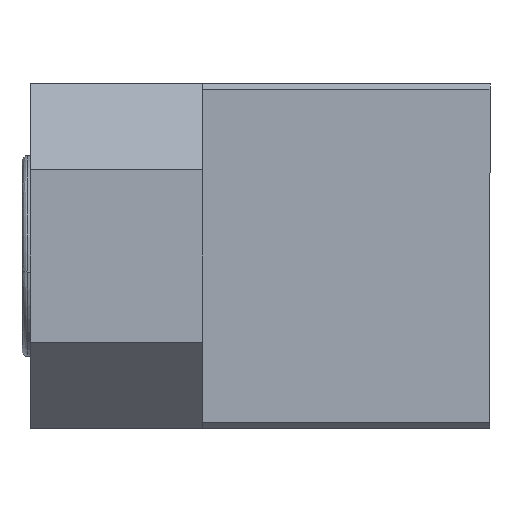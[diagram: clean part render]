
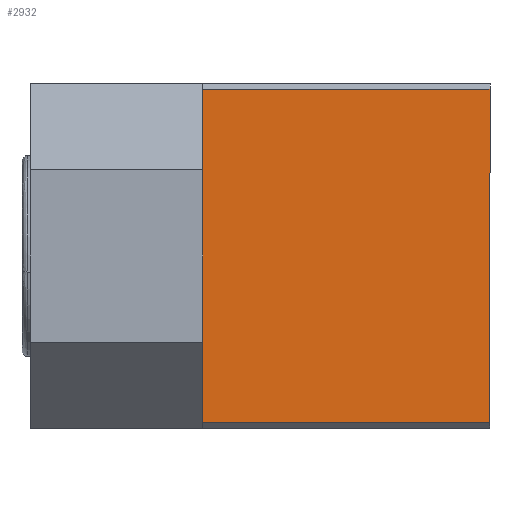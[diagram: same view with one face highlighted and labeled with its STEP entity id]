
A CAD part, left-side view. The second image highlights one B-rep face of the part: STEP entity #2932.
In plain terms, the highlighted planar face has unit normal (-1, 0, 0).
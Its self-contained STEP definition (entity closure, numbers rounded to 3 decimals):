
#143 = AXIS2_PLACEMENT_3D ( 'NONE', #3125, #5954, #628 ) ;
#185 = VERTEX_POINT ( 'NONE', #11168 ) ;
#489 = LINE ( 'NONE', #7827, #8467 ) ;
#628 = DIRECTION ( 'NONE',  ( 0., 0., -1. ) ) ;
#869 = CARTESIAN_POINT ( 'NONE',  ( -10.221, 28.461, 8.2 ) ) ;
#924 = LINE ( 'NONE', #869, #4551 ) ;
#1176 = ORIENTED_EDGE ( 'NONE', *, *, #9886, .T. ) ;
#1264 = LINE ( 'NONE', #8555, #9880 ) ;
#1934 = DIRECTION ( 'NONE',  ( 0., 0., -1. ) ) ;
#2103 = EDGE_LOOP ( 'NONE', ( #10527, #10541, #5041, #1176 ) ) ;
#2932 = ADVANCED_FACE ( 'NONE', ( #11447 ), #7719, .F. ) ;
#3111 = DIRECTION ( 'NONE',  ( 0., 0., 1. ) ) ;
#3125 = CARTESIAN_POINT ( 'NONE',  ( -10.221, 23.461, 19.8 ) ) ;
#3213 = EDGE_CURVE ( 'NONE', #5441, #4856, #1264, .T. ) ;
#3491 = VECTOR ( 'NONE', #1934, 1000. ) ;
#3658 = EDGE_CURVE ( 'NONE', #5441, #5831, #924, .T. ) ;
#4551 = VECTOR ( 'NONE', #9175, 1000. ) ;
#4856 = VERTEX_POINT ( 'NONE', #9272 ) ;
#5041 = ORIENTED_EDGE ( 'NONE', *, *, #9947, .T. ) ;
#5441 = VERTEX_POINT ( 'NONE', #5720 ) ;
#5720 = CARTESIAN_POINT ( 'NONE',  ( -10.221, 23.461, 8.2 ) ) ;
#5831 = VERTEX_POINT ( 'NONE', #6583 ) ;
#5954 = DIRECTION ( 'NONE',  ( 1., 0., 0. ) ) ;
#6441 = LINE ( 'NONE', #10132, #3491 ) ;
#6583 = CARTESIAN_POINT ( 'NONE',  ( -10.221, 33.461, 8.2 ) ) ;
#7719 = PLANE ( 'NONE',  #143 ) ;
#7827 = CARTESIAN_POINT ( 'NONE',  ( -10.221, 28.461, 19.8 ) ) ;
#8467 = VECTOR ( 'NONE', #8559, 1000. ) ;
#8555 = CARTESIAN_POINT ( 'NONE',  ( -10.221, 23.461, 14. ) ) ;
#8559 = DIRECTION ( 'NONE',  ( 0., 1., 0. ) ) ;
#9175 = DIRECTION ( 'NONE',  ( 0., 1., 0. ) ) ;
#9272 = CARTESIAN_POINT ( 'NONE',  ( -10.221, 23.461, 19.8 ) ) ;
#9880 = VECTOR ( 'NONE', #3111, 1000. ) ;
#9886 = EDGE_CURVE ( 'NONE', #185, #5831, #6441, .T. ) ;
#9947 = EDGE_CURVE ( 'NONE', #4856, #185, #489, .T. ) ;
#10132 = CARTESIAN_POINT ( 'NONE',  ( -10.221, 33.461, 14. ) ) ;
#10527 = ORIENTED_EDGE ( 'NONE', *, *, #3658, .F. ) ;
#10541 = ORIENTED_EDGE ( 'NONE', *, *, #3213, .T. ) ;
#11168 = CARTESIAN_POINT ( 'NONE',  ( -10.221, 33.461, 19.8 ) ) ;
#11447 = FACE_OUTER_BOUND ( 'NONE', #2103, .T. ) ;
